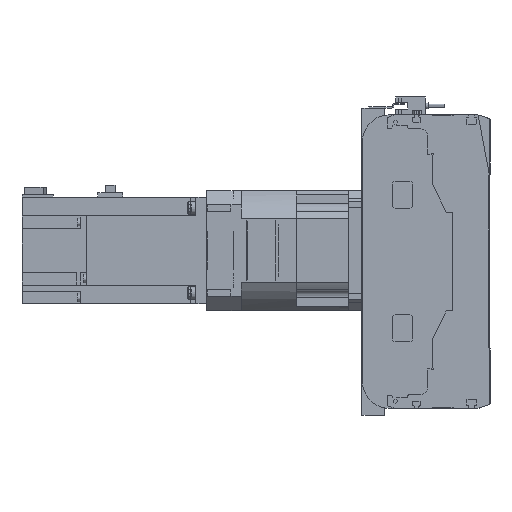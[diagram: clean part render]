
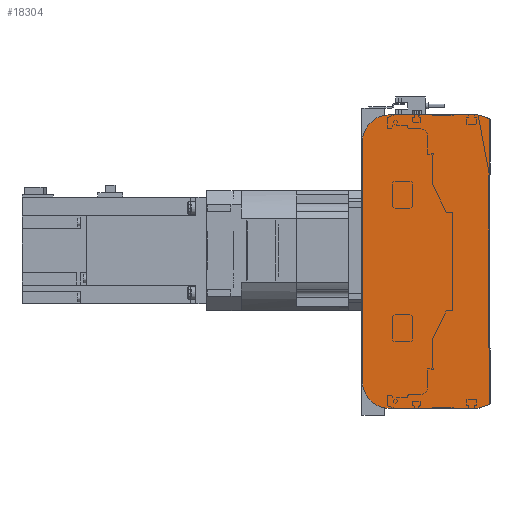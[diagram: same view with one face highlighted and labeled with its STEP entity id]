
A CAD part, left-side view. The second image highlights one B-rep face of the part: STEP entity #18304.
In plain terms, the highlighted planar face has unit normal (-1, 0, 0).
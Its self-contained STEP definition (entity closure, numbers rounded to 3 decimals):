
#1042=CIRCLE('',#19952,20.);
#1043=CIRCLE('',#19955,20.);
#4582=ORIENTED_EDGE('',*,*,#7944,.F.);
#4583=ORIENTED_EDGE('',*,*,#7986,.F.);
#4584=ORIENTED_EDGE('',*,*,#7984,.F.);
#4585=ORIENTED_EDGE('',*,*,#7982,.F.);
#4586=ORIENTED_EDGE('',*,*,#7971,.F.);
#4587=ORIENTED_EDGE('',*,*,#7962,.F.);
#4588=ORIENTED_EDGE('',*,*,#7958,.F.);
#4589=ORIENTED_EDGE('',*,*,#7955,.F.);
#7944=EDGE_CURVE('',#9969,#9970,#11611,.T.);
#7955=EDGE_CURVE('',#9970,#9977,#11622,.T.);
#7958=EDGE_CURVE('',#9977,#9979,#11625,.T.);
#7962=EDGE_CURVE('',#9979,#9980,#11629,.T.);
#7971=EDGE_CURVE('',#9980,#9986,#11638,.T.);
#7982=EDGE_CURVE('',#9986,#9993,#1042,.T.);
#7984=EDGE_CURVE('',#9993,#9994,#11650,.T.);
#7986=EDGE_CURVE('',#9994,#9969,#1043,.T.);
#9969=VERTEX_POINT('',#30210);
#9970=VERTEX_POINT('',#30212);
#9977=VERTEX_POINT('',#30231);
#9979=VERTEX_POINT('',#30237);
#9980=VERTEX_POINT('',#30243);
#9986=VERTEX_POINT('',#30259);
#9993=VERTEX_POINT('',#30278);
#9994=VERTEX_POINT('',#30282);
#11611=LINE('',#30211,#13188);
#11622=LINE('',#30230,#13199);
#11625=LINE('',#30236,#13202);
#11629=LINE('',#30242,#13206);
#11638=LINE('',#30258,#13215);
#11650=LINE('',#30281,#13227);
#13188=VECTOR('',#24183,1000.);
#13199=VECTOR('',#24196,1000.);
#13202=VECTOR('',#24201,1000.);
#13206=VECTOR('',#24207,1000.);
#13215=VECTOR('',#24218,1000.);
#13227=VECTOR('',#24236,1000.);
#14612=EDGE_LOOP('',(#4582,#4583,#4584,#4585,#4586,#4587,#4588,#4589));
#16294=FACE_BOUND('',#14612,.T.);
#17415=PLANE('',#19956);
#18304=ADVANCED_FACE('',(#16294),#17415,.F.);
#19952=AXIS2_PLACEMENT_3D('',#30277,#24231,#24232);
#19955=AXIS2_PLACEMENT_3D('',#30285,#24240,#24241);
#19956=AXIS2_PLACEMENT_3D('',#30286,#24242,#24243);
#24183=DIRECTION('',(0.,-1.,0.));
#24196=DIRECTION('',(0.,-0.945,-0.328));
#24201=DIRECTION('',(0.,0.,-1.));
#24207=DIRECTION('',(0.,0.945,-0.328));
#24218=DIRECTION('',(0.,1.,0.));
#24231=DIRECTION('',(1.,0.,0.));
#24232=DIRECTION('',(0.,0.,-1.));
#24236=DIRECTION('',(0.,0.,1.));
#24240=DIRECTION('',(1.,0.,0.));
#24241=DIRECTION('',(0.,0.,-1.));
#24242=DIRECTION('',(1.,0.,0.));
#24243=DIRECTION('',(0.,0.,-1.));
#30210=CARTESIAN_POINT('',(0.,75.5,110.));
#30211=CARTESIAN_POINT('',(0.,75.5,110.));
#30212=CARTESIAN_POINT('',(0.,9.,110.));
#30230=CARTESIAN_POINT('',(0.,9.,110.));
#30231=CARTESIAN_POINT('',(0.,0.5,107.05));
#30236=CARTESIAN_POINT('',(0.,0.5,107.05));
#30237=CARTESIAN_POINT('',(0.,0.5,-107.05));
#30242=CARTESIAN_POINT('',(0.,0.5,-107.05));
#30243=CARTESIAN_POINT('',(0.,9.,-110.));
#30258=CARTESIAN_POINT('',(0.,9.,-110.));
#30259=CARTESIAN_POINT('',(0.,75.5,-110.));
#30277=CARTESIAN_POINT('',(0.,75.5,-90.));
#30278=CARTESIAN_POINT('',(0.,95.5,-90.));
#30281=CARTESIAN_POINT('',(0.,95.5,-90.));
#30282=CARTESIAN_POINT('',(0.,95.5,90.));
#30285=CARTESIAN_POINT('',(0.,75.5,90.));
#30286=CARTESIAN_POINT('',(0.,75.5,-90.));
